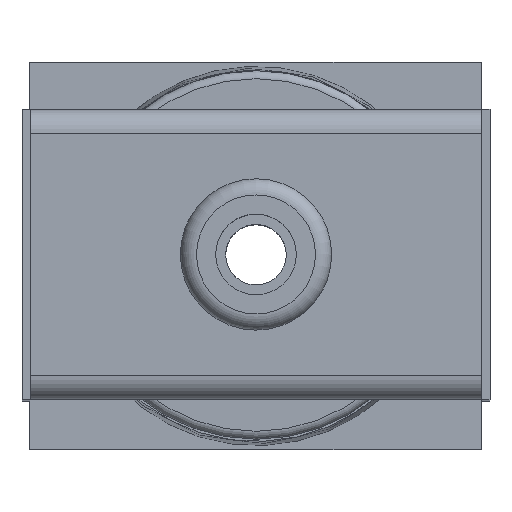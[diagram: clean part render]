
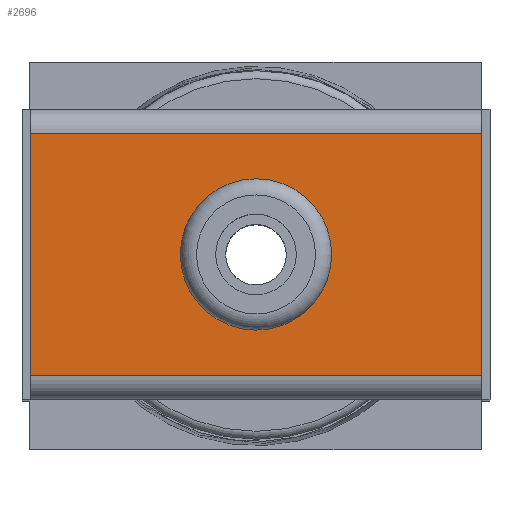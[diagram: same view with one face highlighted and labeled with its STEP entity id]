
A CAD part, top view. The second image highlights one B-rep face of the part: STEP entity #2696.
In plain terms, the highlighted planar face has unit normal (0, 0, 1).
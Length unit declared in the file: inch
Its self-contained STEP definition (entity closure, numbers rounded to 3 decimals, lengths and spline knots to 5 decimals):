
#123=FACE_BOUND('',#522,.T.);
#124=FACE_BOUND('',#523,.T.);
#202=CIRCLE('',#2879,0.75);
#522=EDGE_LOOP('',(#1821));
#523=EDGE_LOOP('',(#1822,#1823,#1824,#1825));
#752=LINE('',#3886,#934);
#768=LINE('',#3927,#950);
#783=LINE('',#3962,#965);
#785=LINE('',#3965,#967);
#934=VECTOR('',#3197,7.);
#950=VECTOR('',#3239,7.);
#965=VECTOR('',#3278,3.75);
#967=VECTOR('',#3282,3.75);
#1106=VERTEX_POINT('',#3877);
#1109=VERTEX_POINT('',#3883);
#1110=VERTEX_POINT('',#3885);
#1121=VERTEX_POINT('',#3924);
#1122=VERTEX_POINT('',#3926);
#1358=EDGE_CURVE('',#1106,#1106,#202,.T.);
#1361=EDGE_CURVE('',#1110,#1109,#752,.T.);
#1381=EDGE_CURVE('',#1122,#1121,#768,.T.);
#1399=EDGE_CURVE('',#1109,#1122,#783,.T.);
#1401=EDGE_CURVE('',#1121,#1110,#785,.T.);
#1821=ORIENTED_EDGE('',*,*,#1358,.T.);
#1822=ORIENTED_EDGE('',*,*,#1381,.T.);
#1823=ORIENTED_EDGE('',*,*,#1401,.T.);
#1824=ORIENTED_EDGE('',*,*,#1361,.T.);
#1825=ORIENTED_EDGE('',*,*,#1399,.T.);
#2396=PLANE('',#2907);
#2696=ADVANCED_FACE('',(#123,#124),#2396,.F.);
#2879=AXIS2_PLACEMENT_3D('',#3878,#3190,#3191);
#2907=AXIS2_PLACEMENT_3D('',#3964,#3280,#3281);
#3190=DIRECTION('center_axis',(0.,0.,
-1.));
#3191=DIRECTION('ref_axis',(1.,0.,0.));
#3197=DIRECTION('',(-1.,0.,0.));
#3239=DIRECTION('',(1.,0.,0.));
#3278=DIRECTION('',(0.,-1.,0.));
#3280=DIRECTION('center_axis',(0.,0.,
-1.));
#3281=DIRECTION('ref_axis',(-1.,0.,0.));
#3282=DIRECTION('',(0.,1.,0.));
#3877=CARTESIAN_POINT('',(0.75,0.,0.));
#3878=CARTESIAN_POINT('Origin',(0.,0.,
0.));
#3883=CARTESIAN_POINT('',(-3.5,1.875,0.));
#3885=CARTESIAN_POINT('',(3.5,1.875,0.));
#3886=CARTESIAN_POINT('',(1.75,1.875,0.));
#3924=CARTESIAN_POINT('',(3.5,-1.875,0.));
#3926=CARTESIAN_POINT('',(-3.5,-1.875,0.));
#3927=CARTESIAN_POINT('',(-1.75,-1.875,0.));
#3962=CARTESIAN_POINT('',(-3.5,2.25,0.));
#3964=CARTESIAN_POINT('Origin',(0.,0.,
0.));
#3965=CARTESIAN_POINT('',(3.5,-2.25,0.));
